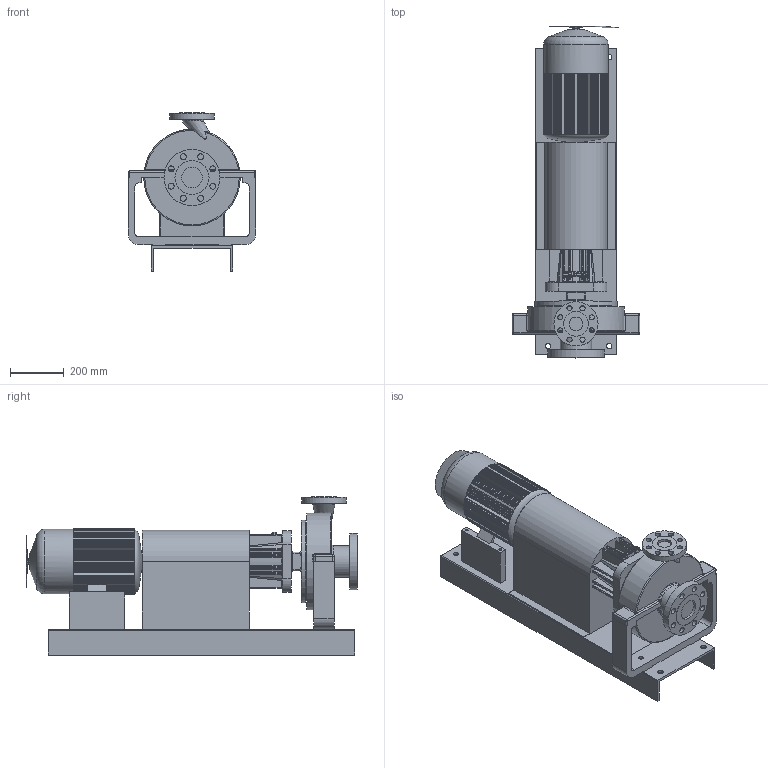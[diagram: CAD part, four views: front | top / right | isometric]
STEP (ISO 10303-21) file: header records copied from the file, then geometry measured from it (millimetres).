
FILE_DESCRIPTION(/* description */ ('Unknown'),/* implementation_level */ '2;1');
FILE_NAME(/* name */ 'CTP 2x3x10 215T',/* time_stamp */ '2016-02-18T13:46:40+01:00',/* author */ ('Unknown'),/* organization */ ('Unknown'),/* preprocessor_version */ 'ST-DEVELOPER v16',/* originating_system */ 'DEX',/* authorisation */ $);
FILE_SCHEMA (('AP242_MANAGED_MODEL_BASED_3D_ENGINEERING_MIM_LF { 1 0 10303 442 1 1 4 }','AUTOMOTIVE_DESIGN {1 0 10303 214 3 1 1}'));
Products named in the file (1): Maatschets3D CTP
Bounding box: 476.25 x 1239.52 x 590.55 mm (x, y, z)
Volume: 61878868.6 mm3; surface area: 3952336.6 mm2
Topology: 1 solids, 1 shells, 1579 faces, 4020 edges, 2403 vertices
Faces by surface type: plane 1098, cylinder 287, bspline 139, sphere 31, torus 22, cone 2
Full cylindrical faces by diameter (mm): 10.414 x4, 16 x2, 19.05 x8, 20 x4, 22.225 x8, 44.925 x1, 50.8 x1, 76.2 x1, 92.075 x1, 117 x1, 127 x1, 165.1 x1, 209.55 x1, 235 x1, 240.03 x1, 280 x1, 309 x1, 361 x1
Entity records: 64263 total; most frequent: CARTESIAN_POINT 16083, ORIENTED_EDGE 7764, DIRECTION 7655, EDGE_CURVE 3882, AXIS2_PLACEMENT_3D 2594, LINE 2467, VECTOR 2467, VERTEX_POINT 2373
